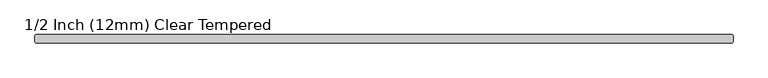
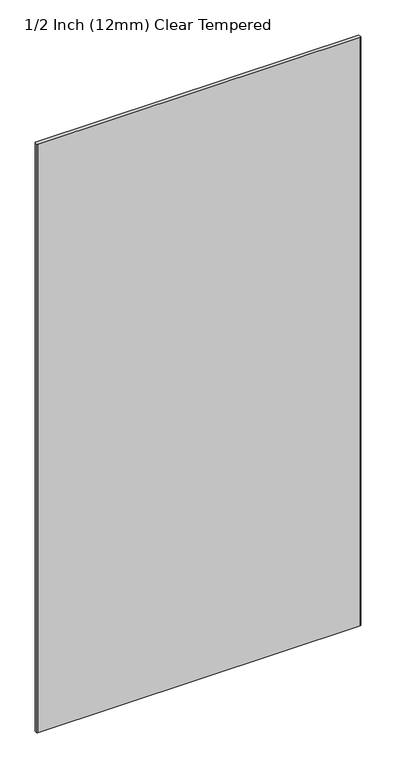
"""IFC4 building model written with IfcOpenShell, lengths in millimetres: plate geometry, Melius SG Panels 1/2 Inch : 1/2 Inch (12mm) Clear Tempered."""

from ifc_helpers import new_model, si_unit, origin, origin_with_axes, place, context, project, spatial, polyline, outline, extrude, source, transform, mapped, element, save


def plate_1_2_inch_12mm_clear_tempered_93130f93(model_context):
    return source(origin(), model_context, "Body", "SweptSolid", [
        extrude(outline(polyline([(537.8390502, 6.35), (539.2281127, 4.9609375), (539.2281127, -4.9609375), (537.8390502, -6.35), (-537.8390502, -6.35), (-539.2281127, -4.9609375), (-539.2281127, 4.9609375), (-537.8390502, 6.35), (537.8390502, 6.35)])), origin_with_axes(), (0.0, 0.0, 1.0), 2070.1),
    ])


if __name__ == "__main__":
    model = new_model("IFC4")
    model_context = context("Model", 3, world=origin())
    ifc_project = project(units=[si_unit("LENGTHUNIT", "METRE", prefix="MILLI")], contexts=[model_context])
    site = spatial("IfcSite", under=ifc_project)
    building = spatial("IfcBuilding", under=site)
    placement = place(None, origin())
    plate_1_2_inch_12mm_clear_tempered_shape = plate_1_2_inch_12mm_clear_tempered_93130f93(model_context)
    element("IfcPlate", 1, ObjectType="Melius SG Panels 1/2 Inch : 1/2 Inch (12mm) Clear Tempered", at=placement, inside=building, context=model_context, shape_type="MappedRepresentation", body=[
        mapped(plate_1_2_inch_12mm_clear_tempered_shape, transform((0.0, 0.0, 0.0), x_axis=(1.0, 0.0, 0.0), y_axis=(0.0, 1.0, 0.0), z_axis=(0.0, 0.0, 1.0))),
    ])
    save(model, "model.ifc")
